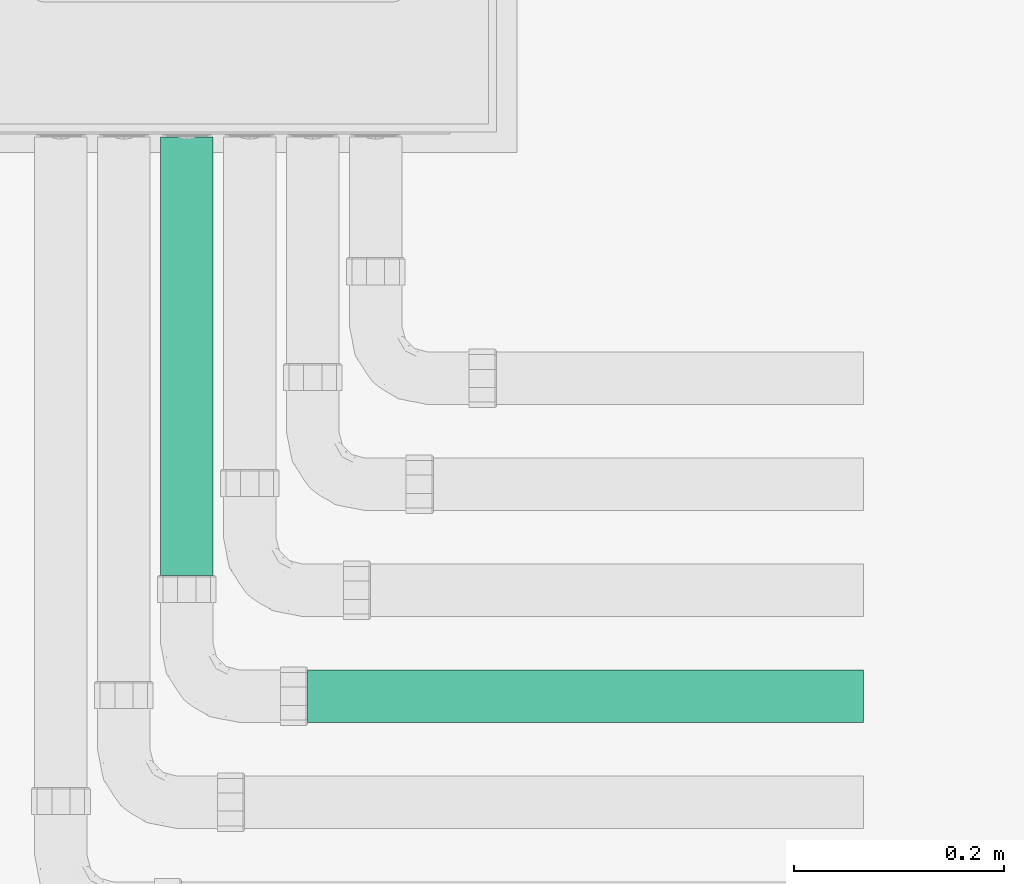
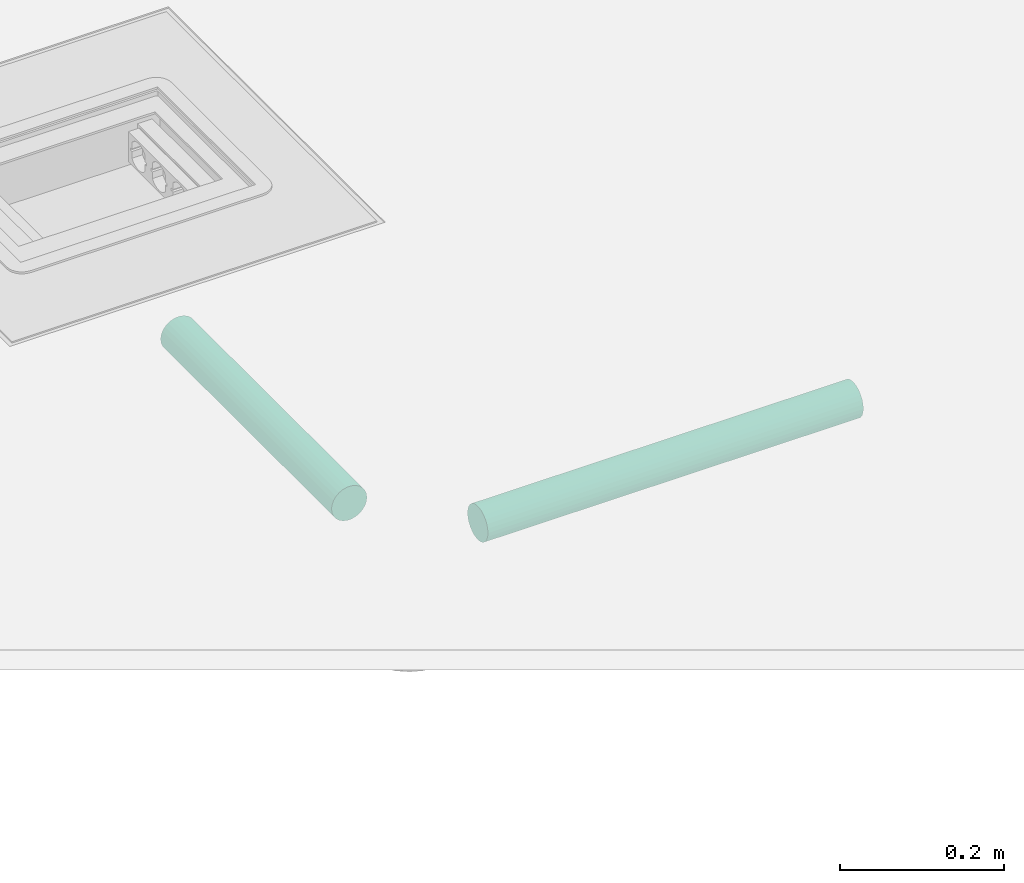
# One storey, part 7 of 87: 2 flow segments.
"""IFC2X3 building model written with IfcOpenShell, lengths in millimetres."""

from ifc_helpers import new_model, entity, si_unit, converted_unit, derived_unit, direction, frame, frame_2d, origin, place, context, subcontext, project, spatial, circle, extrude, type_object, element, save


model = new_model("IFC2X3")

# Units and contexts
model_context = context("Model", 3, precision=0.01, world=origin(), true_north=direction((6.12303176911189e-17, 1.0)))
body_context = subcontext(model_context, "Body", "Model", "MODEL_VIEW")
ifc_project = project(units=[si_unit("LENGTHUNIT", "METRE", prefix="MILLI"), si_unit("AREAUNIT", "SQUARE_METRE"), si_unit("VOLUMEUNIT", "CUBIC_METRE"), converted_unit("PLANEANGLEUNIT", "DEGREE", entity("IfcRatioMeasure", 0.0174532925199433), si_unit("PLANEANGLEUNIT", "RADIAN"), dimensions=[0, 0, 0, 0, 0, 0, 0]), si_unit("MASSUNIT", "GRAM", prefix="KILO"), derived_unit("MASSDENSITYUNIT", [(si_unit("MASSUNIT", "GRAM", prefix="KILO"), 1), (si_unit("LENGTHUNIT", "METRE"), -3)]), si_unit("TIMEUNIT", "SECOND"), si_unit("FREQUENCYUNIT", "HERTZ"), si_unit("THERMODYNAMICTEMPERATUREUNIT", "DEGREE_CELSIUS"), derived_unit("THERMALTRANSMITTANCEUNIT", [(si_unit("MASSUNIT", "GRAM", prefix="KILO"), 1), (si_unit("THERMODYNAMICTEMPERATUREUNIT", "KELVIN"), -1), (si_unit("TIMEUNIT", "SECOND"), -3)]), derived_unit("VOLUMETRICFLOWRATEUNIT", [(si_unit("LENGTHUNIT", "METRE"), 3), (si_unit("TIMEUNIT", "SECOND"), -1)]), si_unit("ELECTRICCURRENTUNIT", "AMPERE"), si_unit("ELECTRICVOLTAGEUNIT", "VOLT"), si_unit("POWERUNIT", "WATT"), si_unit("FORCEUNIT", "NEWTON", prefix="KILO"), si_unit("ILLUMINANCEUNIT", "LUX"), si_unit("LUMINOUSFLUXUNIT", "LUMEN"), si_unit("LUMINOUSINTENSITYUNIT", "CANDELA"), derived_unit("USERDEFINED", [(si_unit("MASSUNIT", "GRAM", prefix="KILO"), -1), (si_unit("LENGTHUNIT", "METRE"), -2), (si_unit("TIMEUNIT", "SECOND"), 3), (si_unit("LUMINOUSFLUXUNIT", "LUMEN"), 1)]), derived_unit("LINEARVELOCITYUNIT", [(si_unit("LENGTHUNIT", "METRE"), 1), (si_unit("TIMEUNIT", "SECOND"), -1)]), si_unit("PRESSUREUNIT", "PASCAL"), derived_unit("USERDEFINED", [(si_unit("LENGTHUNIT", "METRE"), -2), (si_unit("MASSUNIT", "GRAM", prefix="KILO"), 1), (si_unit("TIMEUNIT", "SECOND"), -2)])], contexts=[model_context])

# Site, building, storey
site_placement = place(None, origin())
site = spatial("IfcSite", under=ifc_project, at=site_placement, Name="Default", CompositionType="ELEMENT")
building_placement = place(site_placement, origin())
building = spatial("IfcBuilding", under=site, at=building_placement, Name="Наименование здания", CompositionType="ELEMENT")
storey_placement = place(building_placement, origin())
storey = spatial("IfcBuildingStorey", under=building, at=storey_placement, Name="Этаж 01", CompositionType="ELEMENT", Elevation=0.0)

# Flow segments
cable_carrier_segment_type = type_object("IfcCableCarrierSegmentType", Name="Короб с соединительными деталями:ADSK_Труба водогазопроводная_Стальная", PredefinedType="CONDUITSEGMENT")
flow_segment_1_placement = place(storey_placement, origin())
element("IfcFlowSegment", 1, at=flow_segment_1_placement, inside=storey, type_object=cable_carrier_segment_type, Name="Короб с соединительными деталями:ADSK_Труба водогазопроводная_Стальная", ObjectType="Короб с соединительными деталями:ADSK_Труба водогазопроводная_Стальная", context=body_context, shape_type="SweptSolid", body=[
    extrude(circle(Radius=25.0, at=frame_2d((-8.66293703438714e-12, 1.15900622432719e-12), x_axis=(1.0, 0.0))), frame((-16845.2403415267, 6036.36678153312, -59.5000000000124), z_axis=(0.0, 1.0, 0.0), x_axis=(-1.0, 0.0, 0.0)), (0.0, 0.0, 1.0), 418.000000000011),
])
flow_segment_2_placement = place(storey_placement, origin())
element("IfcFlowSegment", 2, at=flow_segment_2_placement, inside=storey, type_object=cable_carrier_segment_type, Name="Короб с соединительными деталями:ADSK_Труба водогазопроводная_Стальная", ObjectType="Короб с соединительными деталями:ADSK_Труба водогазопроводная_Стальная", context=body_context, shape_type="SweptSolid", body=[
    extrude(circle(Radius=25.0, at=frame_2d((0.0, -3.38395977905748e-14), x_axis=(1.0, 0.0))), frame((-16730.2403415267, 5921.36678153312, -59.5000000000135), z_axis=(1.0, 0.0, 0.0), x_axis=(0.0, -1.0, 0.0)), (0.0, 0.0, 1.0), 530.000000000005),
])

save(model, "model.ifc")
